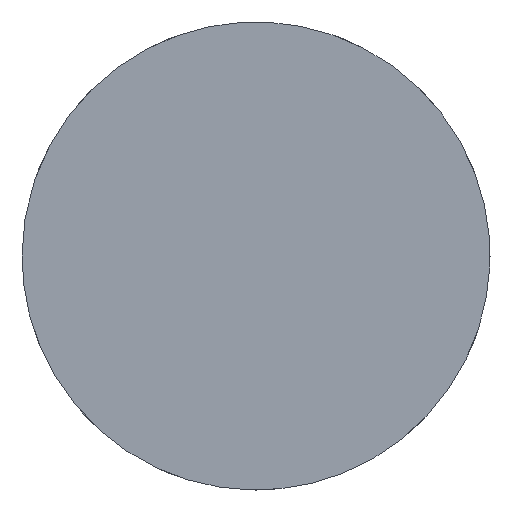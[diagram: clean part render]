
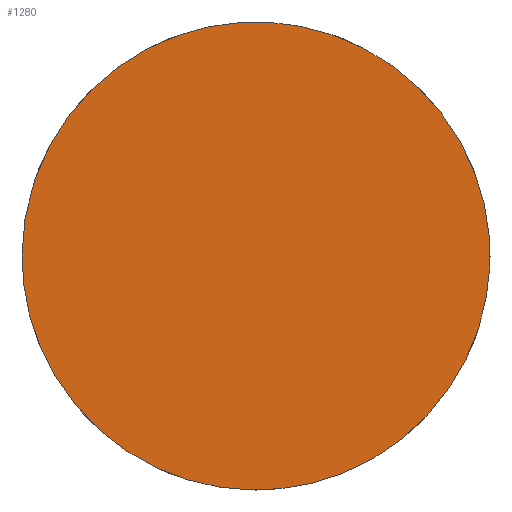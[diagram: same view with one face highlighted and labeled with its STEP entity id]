
A CAD part, left-side view. The second image highlights one B-rep face of the part: STEP entity #1280.
In plain terms, the highlighted free-form (B-spline) face has degree [1, 1] with [2, 2] control points.
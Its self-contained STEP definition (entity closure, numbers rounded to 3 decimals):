
#680 = CARTESIAN_POINT ('', (0., 6.028, 3.));
#690 = VERTEX_POINT ('', #680);
#760 = CARTESIAN_POINT ('', (0., 6.028, 3.));
#770 = CARTESIAN_POINT ('', (0., 6.028, 6.));
#780 = CARTESIAN_POINT ('', (0., 3.028, 6.));
#790 = CARTESIAN_POINT ('', (0., 0.028, 6.));
#800 = CARTESIAN_POINT ('', (0., 0.028, 3.));
#810 = CARTESIAN_POINT ('', (0., 0.028, 0.));
#820 = CARTESIAN_POINT ('', (0., 3.028, 0.));
#830 = CARTESIAN_POINT ('', (0., 6.028, 0.));
#840 = CARTESIAN_POINT ('', (0., 6.028, 3.));
#850 = (
   BOUNDED_CURVE ()
   B_SPLINE_CURVE (2, (#760, #770, #780, #790, #800, #810, #820, #830, #840), .UNSPECIFIED., .T., .U.)
   B_SPLINE_CURVE_WITH_KNOTS ((3, 2, 2, 2, 3), (0., 0.25, 0.5, 0.75, 1.), .UNSPECIFIED.)
   CURVE ()
   GEOMETRIC_REPRESENTATION_ITEM ()
   RATIONAL_B_SPLINE_CURVE ((1., 0.707, 1., 0.707, 1., 0.707, 1., 0.707, 1.))
   REPRESENTATION_ITEM ('')
);
#860 = EDGE_CURVE ('', #690, #690, #850, .T.);
#1200 = ORIENTED_EDGE ('', *, *, #860, .F.);
#1210 = EDGE_LOOP ('', (#1200));
#1220 = FACE_OUTER_BOUND ('', #1210, .T.);
#1230 = CARTESIAN_POINT ('', (0., -5.989, -5.535));
#1240 = CARTESIAN_POINT ('', (0., 11.83, -5.535));
#1250 = CARTESIAN_POINT ('', (0., -5.989, 12.284));
#1260 = CARTESIAN_POINT ('', (0., 11.83, 12.284));
#1270 = B_SPLINE_SURFACE_WITH_KNOTS ('', 1, 1, ((#1230, #1240), (#1250, #1260)), .UNSPECIFIED., .F., .F., .U., (2, 2), (2, 2), (0., 1.), (0., 1.), .UNSPECIFIED.);
#1280 = ADVANCED_FACE ('', (#1220), #1270, .T.);
